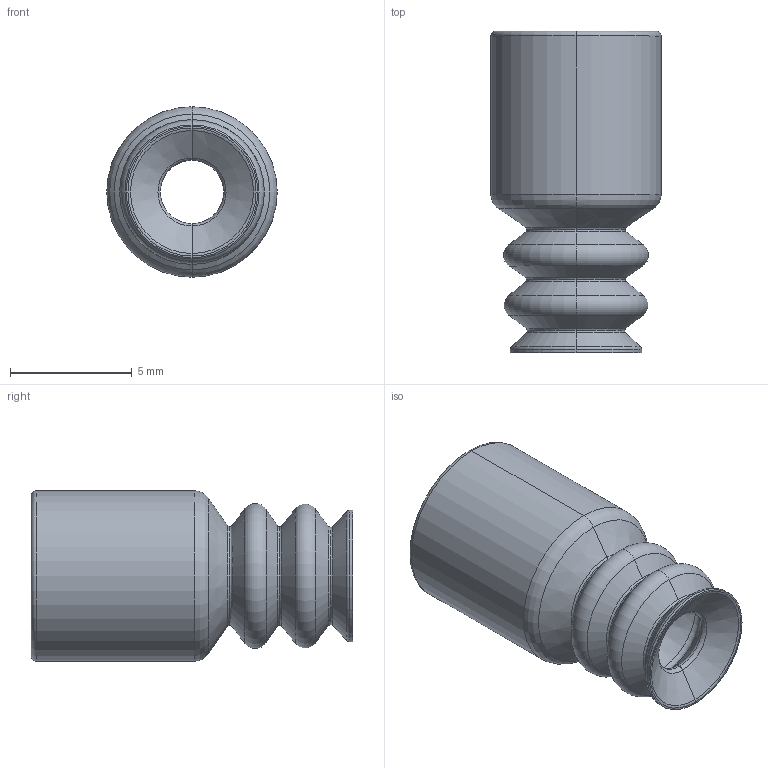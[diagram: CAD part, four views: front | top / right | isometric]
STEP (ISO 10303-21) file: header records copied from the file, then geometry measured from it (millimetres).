
FILE_DESCRIPTION (( 'STEP AP203' ), '1' );
FILE_NAME ('2-2 06--A.STEP', '2021-02-16T07:57:54', ( '' ), ( '' ), 'SwSTEP 2.0', 'SolidWorks 2021', '' );
FILE_SCHEMA (( 'CONFIG_CONTROL_DESIGN' ));
Length unit declared in the file: millimetre
Products named in the file (1): 2-2 06--A
Bounding box: 7 x 13.19 x 7 mm (x, y, z)
Volume: 261 mm3; surface area: 501 mm2
Topology: 1 solids, 1 shells, 74 faces, 148 edges, 76 vertices
Faces by surface type: torus 42, cone 24, cylinder 6, plane 2
Entity records: 1987 total; most frequent: DIRECTION 416, CARTESIAN_POINT 299, ORIENTED_EDGE 296, AXIS2_PLACEMENT_3D 193, EDGE_CURVE 148, CIRCLE 118, EDGE_LOOP 76, VERTEX_POINT 76
